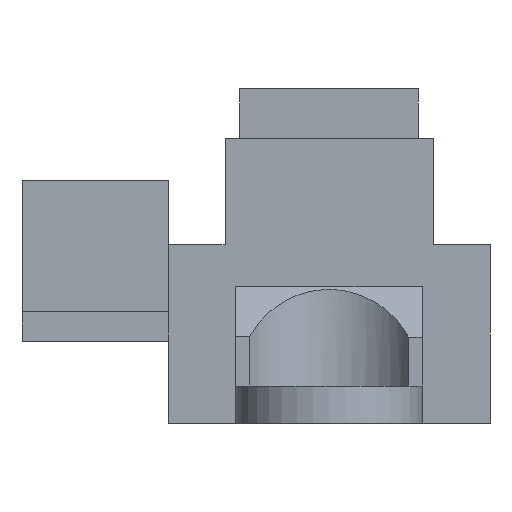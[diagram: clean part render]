
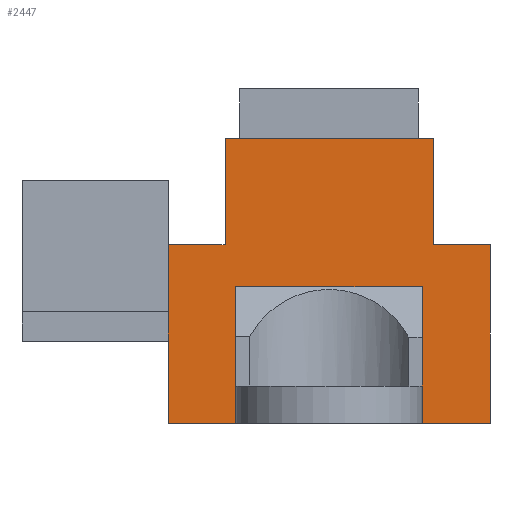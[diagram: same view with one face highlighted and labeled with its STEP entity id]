
A CAD part, front view. The second image highlights one B-rep face of the part: STEP entity #2447.
In plain terms, the highlighted planar face has unit normal (0, -1, 0).
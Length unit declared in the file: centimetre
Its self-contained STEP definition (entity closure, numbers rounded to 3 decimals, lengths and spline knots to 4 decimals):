
#626=VERTEX_POINT('',#9258);
#627=VERTEX_POINT('',#9259);
#670=VERTEX_POINT('',#9365);
#673=VERTEX_POINT('',#9370);
#714=VERTEX_POINT('',#9563);
#715=VERTEX_POINT('',#9567);
#717=VERTEX_POINT('',#9637);
#722=VERTEX_POINT('',#9689);
#726=VERTEX_POINT('',#9703);
#745=VERTEX_POINT('',#9842);
#746=VERTEX_POINT('',#9844);
#747=VERTEX_POINT('',#9846);
#748=VERTEX_POINT('',#9848);
#749=VERTEX_POINT('',#9850);
#891=EDGE_CURVE('',#626,#627,#4416,.T.);
#957=EDGE_CURVE('',#673,#670,#4469,.T.);
#962=EDGE_CURVE('',#673,#627,#4472,.T.);
#1018=EDGE_CURVE('',#714,#670,#4510,.T.);
#1020=EDGE_CURVE('',#715,#714,#4512,.T.);
#1028=EDGE_CURVE('',#717,#722,#4515,.T.);
#1034=EDGE_CURVE('',#726,#717,#4520,.T.);
#1058=EDGE_CURVE('',#722,#745,#4537,.T.);
#1059=EDGE_CURVE('',#745,#746,#4538,.T.);
#1060=EDGE_CURVE('',#746,#747,#4539,.T.);
#1061=EDGE_CURVE('',#747,#748,#4540,.T.);
#1062=EDGE_CURVE('',#748,#749,#4541,.T.);
#1063=EDGE_CURVE('',#749,#715,#4472,.T.);
#1064=EDGE_CURVE('',#626,#726,#4540,.T.);
#1569=ORIENTED_EDGE('',*,*,#1034,.T.);
#1570=ORIENTED_EDGE('',*,*,#1028,.T.);
#1571=ORIENTED_EDGE('',*,*,#1058,.T.);
#1572=ORIENTED_EDGE('',*,*,#1059,.T.);
#1573=ORIENTED_EDGE('',*,*,#1060,.T.);
#1574=ORIENTED_EDGE('',*,*,#1061,.T.);
#1575=ORIENTED_EDGE('',*,*,#1062,.T.);
#1576=ORIENTED_EDGE('',*,*,#1063,.T.);
#1577=ORIENTED_EDGE('',*,*,#1020,.T.);
#1578=ORIENTED_EDGE('',*,*,#1018,.T.);
#1579=ORIENTED_EDGE('',*,*,#957,.F.);
#1580=ORIENTED_EDGE('',*,*,#962,.T.);
#1581=ORIENTED_EDGE('',*,*,#891,.F.);
#1582=ORIENTED_EDGE('',*,*,#1064,.T.);
#2075=EDGE_LOOP('',(#1569,#1570,#1571,#1572,#1573,#1574,#1575,#1576,#1577,
#1578,#1579,#1580,#1581,#1582));
#2271=FACE_BOUND('',#2075,.T.);
#2447=ADVANCED_FACE('',(#2271),#7403,.T.);
#4416=LINE('',#9257,#7087);
#4469=LINE('',#9371,#7140);
#4472=LINE('',#9377,#7143);
#4510=LINE('',#9562,#7181);
#4512=LINE('',#9566,#7183);
#4515=LINE('',#9690,#7186);
#4520=LINE('',#9702,#7191);
#4537=LINE('',#9841,#7208);
#4538=LINE('',#9843,#7209);
#4539=LINE('',#9845,#7210);
#4540=LINE('',#9847,#7211);
#4541=LINE('',#9849,#7212);
#6626=AXIS2_PLACEMENT_3D('',#9840,#8257,$);
#7087=VECTOR('',#8062,1.);
#7140=VECTOR('',#8129,1.);
#7143=VECTOR('',#8133,1.);
#7181=VECTOR('',#8220,1.);
#7183=VECTOR('',#8223,1.);
#7186=VECTOR('',#8226,1.);
#7191=VECTOR('',#8237,1.);
#7208=VECTOR('',#8258,1.);
#7209=VECTOR('',#8259,1.);
#7210=VECTOR('',#8260,1.);
#7211=VECTOR('',#8261,1.);
#7212=VECTOR('',#8262,1.);
#7403=PLANE('',#6626);
#8062=DIRECTION('',(0.,0.,1.));
#8129=DIRECTION('',(0.,0.,1.));
#8133=DIRECTION('',(-1.,0.,0.));
#8220=DIRECTION('',(-1.,0.,0.));
#8223=DIRECTION('',(0.,0.,1.));
#8226=DIRECTION('',(1.,0.,0.));
#8237=DIRECTION('',(0.,0.,1.));
#8257=DIRECTION('',(0.,-1.,0.));
#8258=DIRECTION('',(0.,0.,-1.));
#8259=DIRECTION('',(1.,0.,0.));
#8260=DIRECTION('',(0.,0.,-1.));
#8261=DIRECTION('',(1.,0.,0.));
#8262=DIRECTION('',(0.,0.,1.));
#9257=CARTESIAN_POINT('',(-1.3,0.,0.));
#9258=CARTESIAN_POINT('',(-1.3,0.,0.));
#9259=CARTESIAN_POINT('',(-1.3,0.,0.72));
#9365=CARTESIAN_POINT('',(-1.07,0.,1.15));
#9370=CARTESIAN_POINT('',(-1.07,0.,0.72));
#9371=CARTESIAN_POINT('',(-1.07,0.,0.72));
#9377=CARTESIAN_POINT('',(-1.3,0.,0.72));
#9562=CARTESIAN_POINT('',(-1.07,0.,1.15));
#9563=CARTESIAN_POINT('',(-0.23,0.,1.15));
#9566=CARTESIAN_POINT('',(-0.23,0.,0.72));
#9567=CARTESIAN_POINT('',(-0.23,0.,0.72));
#9637=CARTESIAN_POINT('',(-1.0275,0.,0.55));
#9689=CARTESIAN_POINT('',(-0.2736,0.,0.55));
#9690=CARTESIAN_POINT('',(-0.65,0.,0.55));
#9702=CARTESIAN_POINT('',(-1.0275,0.,0.));
#9703=CARTESIAN_POINT('',(-1.0275,0.,0.));
#9840=CARTESIAN_POINT('',(-0.65,0.,0.));
#9841=CARTESIAN_POINT('',(-0.2736,0.,0.075));
#9842=CARTESIAN_POINT('',(-0.2736,0.,0.15));
#9843=CARTESIAN_POINT('',(-0.65,0.,0.15));
#9844=CARTESIAN_POINT('',(-0.2725,0.,0.15));
#9845=CARTESIAN_POINT('',(-0.2725,0.,0.));
#9846=CARTESIAN_POINT('',(-0.2725,0.,0.));
#9847=CARTESIAN_POINT('',(-1.3,0.,0.));
#9848=CARTESIAN_POINT('',(0.,0.,0.));
#9849=CARTESIAN_POINT('',(0.,0.,0.));
#9850=CARTESIAN_POINT('',(0.,0.,0.72));
